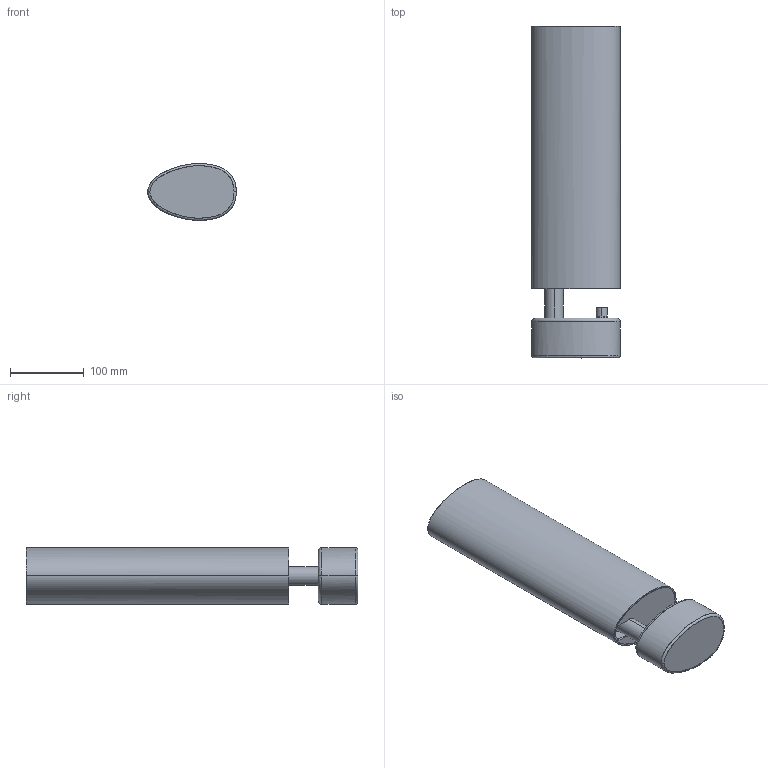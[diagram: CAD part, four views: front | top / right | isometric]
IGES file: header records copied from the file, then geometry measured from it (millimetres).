
Start section: SolidWorks IGES file using analytic representation for surfaces
Global section: file name: S:\7 Produktudvikling\02_PD\03_PROJECTS\01_Development\146_Sail\02_Drawings\02_Sketch_PD\Sail Collection Drawings\146-11-001-01 Sail_H450_LED.IGS; native system: SolidWorks 2021; preprocessor: SolidWorks 2021; author: cma; date: 211206.094637; units: millimetre
Bounding box: 120 x 450 x 77.17 mm (x, y, z)
Surface area: 493829.6 mm2 (no closed solid volume)
Topology: 0 solids, 0 shells, 503 faces, 7189 edges, 7177 vertices
Faces by surface type: revolution 266, bspline 237
